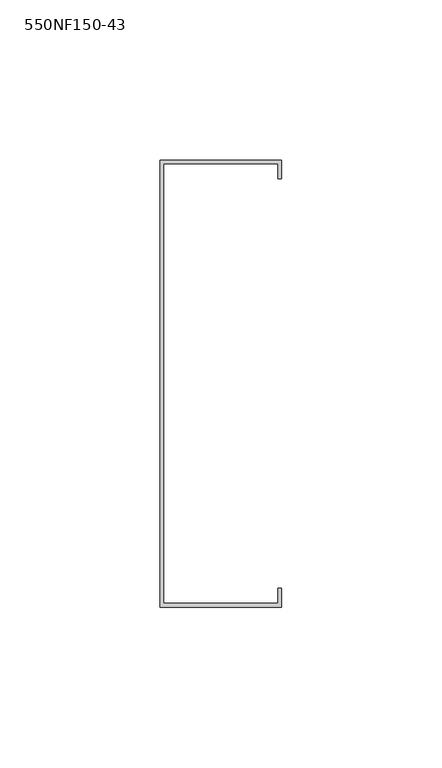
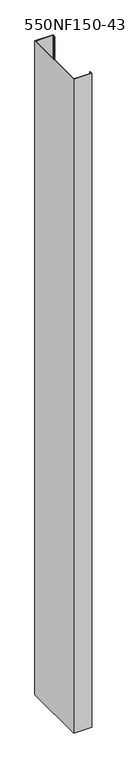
"""IFC4 building model written with IfcOpenShell, lengths in millimetres: column geometry, BIMSF-SSMA-S-Column : 550NF150-43."""

from ifc_helpers import new_model, si_unit, frame, origin, place, context, project, spatial, polyline, outline, extrude, source, transform, mapped, element, save


def column_550nf150_43_2084a76c(model_context):
    return source(origin(), model_context, "Body", "SweptSolid", [
        extrude(outline(polyline([(-11.9977877, -80.5871249), (-11.9977877, 59.1128751), (26.1022123, 59.1128751), (26.1022123, 53.1879908), (24.952528, 53.1879908), (24.952528, 57.9631908), (-10.8481035, 57.9631908), (-10.8481035, -79.4374407), (24.952528, -79.4374407), (24.952528, -74.6622407), (26.1022123, -74.6622407), (26.1022123, -80.5871249), (-11.9977877, -80.5871249)])), frame((0.0, 0.0, 5525.3929688), z_axis=(0.0, 0.0, 1.0), x_axis=(1.0, 0.0, 0.0)), (0.0, 0.0, 1.0), 1438.2412284),
    ])


if __name__ == "__main__":
    model = new_model("IFC4")
    model_context = context("Model", 3, world=origin())
    ifc_project = project(units=[si_unit("LENGTHUNIT", "METRE", prefix="MILLI")], contexts=[model_context])
    site = spatial("IfcSite", under=ifc_project)
    building = spatial("IfcBuilding", under=site)
    placement = place(None, origin())
    column_550nf150_43_shape = column_550nf150_43_2084a76c(model_context)
    element("IfcColumn", 1, ObjectType="BIMSF-SSMA-S-Column : 550NF150-43", at=placement, inside=building, context=model_context, shape_type="MappedRepresentation", body=[
        mapped(column_550nf150_43_shape, transform((0.0, 0.0, 0.0), x_axis=(1.0, 0.0, 0.0), y_axis=(0.0, 1.0, 0.0), z_axis=(0.0, 0.0, 1.0))),
    ])
    save(model, "model.ifc")
